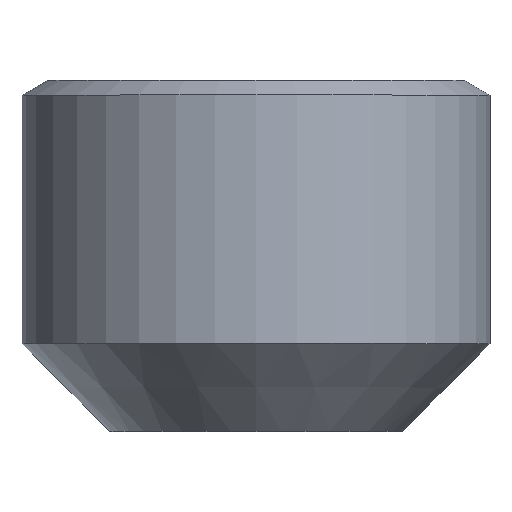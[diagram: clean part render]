
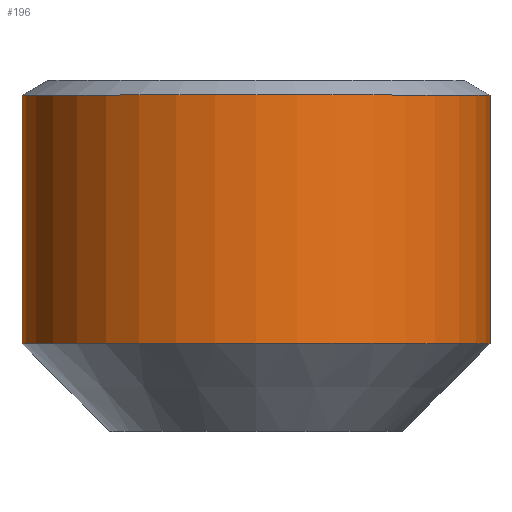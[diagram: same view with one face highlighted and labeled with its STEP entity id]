
A CAD part, top view. The second image highlights one B-rep face of the part: STEP entity #196.
In plain terms, the highlighted cylindrical face has radius 2 mm (diameter 4 mm), a full revolution.
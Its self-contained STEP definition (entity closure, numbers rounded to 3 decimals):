
#31=CYLINDRICAL_SURFACE('',#230,2.);
#33=FACE_OUTER_BOUND('',#45,.T.);
#45=EDGE_LOOP('',(#142,#143,#144,#145));
#58=LINE('',#303,#74);
#74=VECTOR('',#256,2.);
#90=CIRCLE('',#229,2.);
#91=CIRCLE('',#231,2.);
#94=VERTEX_POINT('',#297);
#95=VERTEX_POINT('',#301);
#113=EDGE_CURVE('',#94,#94,#90,.T.);
#114=EDGE_CURVE('',#95,#95,#91,.T.);
#115=EDGE_CURVE('',#95,#94,#58,.T.);
#142=ORIENTED_EDGE('',*,*,#114,.F.);
#143=ORIENTED_EDGE('',*,*,#115,.T.);
#144=ORIENTED_EDGE('',*,*,#113,.F.);
#145=ORIENTED_EDGE('',*,*,#115,.F.);
#196=ADVANCED_FACE('',(#33),#31,.T.);
#229=AXIS2_PLACEMENT_3D('',#299,#250,#251);
#230=AXIS2_PLACEMENT_3D('',#300,#252,#253);
#231=AXIS2_PLACEMENT_3D('',#302,#254,#255);
#250=DIRECTION('center_axis',(0.,-1.,0.));
#251=DIRECTION('ref_axis',(1.,0.,0.));
#252=DIRECTION('center_axis',(0.,1.,0.));
#253=DIRECTION('ref_axis',(1.,0.,0.));
#254=DIRECTION('center_axis',(0.,1.,0.));
#255=DIRECTION('ref_axis',(1.,0.,0.));
#256=DIRECTION('',(0.,-1.,0.));
#297=CARTESIAN_POINT('',(-2.,0.75,0.));
#299=CARTESIAN_POINT('Origin',(0.,0.75,0.));
#300=CARTESIAN_POINT('Origin',(0.,0.,0.));
#301=CARTESIAN_POINT('',(-2.,2.874,0.));
#302=CARTESIAN_POINT('Origin',(0.,2.874,0.));
#303=CARTESIAN_POINT('',(-2.,0.,0.));
